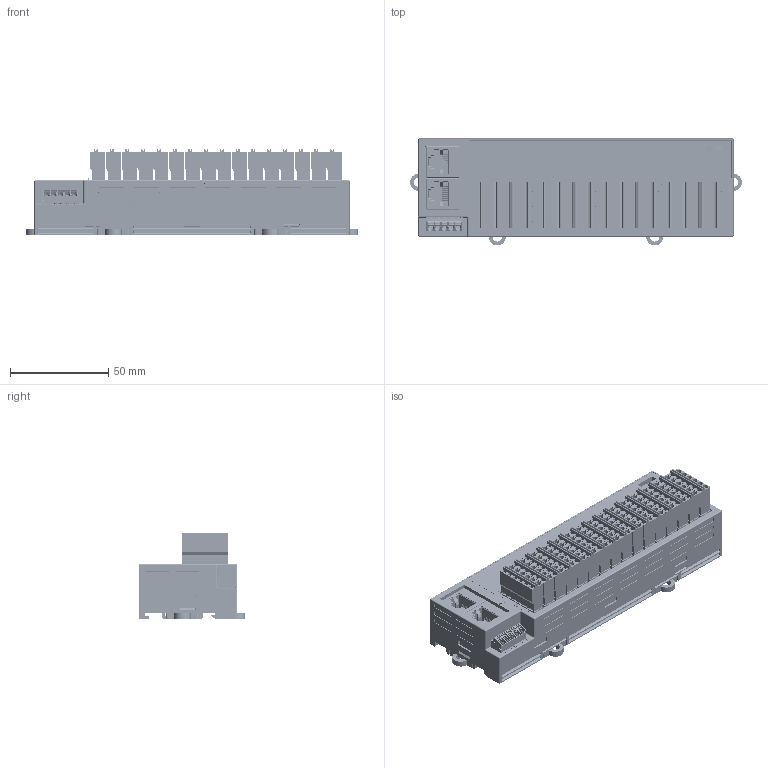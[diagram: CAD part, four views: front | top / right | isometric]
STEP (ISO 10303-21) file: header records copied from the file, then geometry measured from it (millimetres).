
FILE_DESCRIPTION((''),'2;1');
FILE_NAME('HCNXE-MD2408-D-DUIWAI_ASM_ASM','2021-09-23T13:43:16',('AOC'),(''),'CREO PARAMETRIC BY PTC INC, 2018050','CREO PARAMETRIC BY PTC INC, 2018050','');
FILE_SCHEMA(('CONFIG_CONTROL_DESIGN','SHAPE_APPEARANCE_LAYERS_GROUPS'));
Products named in the file (53): HSMP2700001_1; HSMP2700002_1; HSMP2700002-L_1_1; HSMP2700002-L_1_2; HSMP2700002-L_1_3; HSMP2700002-L_1_4; HSMP2700002-L_1_5; HSMP2700002-L_1_6; HSMP2700002-L_1_7; HSMP2700002-L_1_8; HSMP2700002-L_1_9; HSMP2700002-L_1_10; HSMP2700002-L_1_11; HSMP2700002-L_1_12; HSMP2700002-L_1_13; HSMP2700002-L_1_14; HSMP2700002-L_1_15; HSMP2700002-L_1_16; HSMP2700002-L_1_17; HSMP2700002-L_1_18; HSMP2700002-L_1_19; HSMP2700002-L_1_20; HSMP2700002-L_1_21; HSMP2700002-L_1_22; HSMP2700002-L_1_23; HSMP2700002-L_1_24; HSMP2700002-L_1_25; HSMP2700002-L_1_26; HSMP2700002-L_1_27; HSMP2700002-L_1_28; HSMP2700002-L_1_29; HSMP2700002-L_1_30; HSMP2700002-L_1_31; HSMP2700002-L_1_32; HSMP2700002-L_1_ASM; HSMP2700002-L_ASM_1_ASM; HMSP0040000_1; HMSP0040000-S-MD1616_1; HMSP0040000-S_ASM_1_ASM; HSMP2700003_1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
Assembly tree (85 placements, depth 6):
  HCNXE-MD2408-D-DUIWAI_ASM_ASM
    HCNXE-MD2408-D-DUIWAI_ASM_8_ASM
      HCNXE-DIGTAL-IO-D-BOM-ASSEMBLY__ASM
        HSMP2700001_1
        HSMP2700002-L_ASM_1_ASM
          HSMP2700002_1
          HSMP2700002-L_1_ASM
            HSMP2700002-L_1_1
            HSMP2700002-L_1_2
            HSMP2700002-L_1_3
            HSMP2700002-L_1_4
            HSMP2700002-L_1_5
            HSMP2700002-L_1_6
            HSMP2700002-L_1_7
            HSMP2700002-L_1_8
            HSMP2700002-L_1_9
            HSMP2700002-L_1_10
            HSMP2700002-L_1_11
            HSMP2700002-L_1_12
            HSMP2700002-L_1_13
            HSMP2700002-L_1_14
            HSMP2700002-L_1_15
            HSMP2700002-L_1_16
            HSMP2700002-L_1_17
            HSMP2700002-L_1_18
            HSMP2700002-L_1_19
            HSMP2700002-L_1_20
            HSMP2700002-L_1_21
            HSMP2700002-L_1_22
            HSMP2700002-L_1_23
            HSMP2700002-L_1_24
            HSMP2700002-L_1_25
            HSMP2700002-L_1_26
            HSMP2700002-L_1_27
            HSMP2700002-L_1_28
            HSMP2700002-L_1_29
            HSMP2700002-L_1_30
            HSMP2700002-L_1_31
            HSMP2700002-L_1_32
        HMSP0040000-S_ASM_1_ASM
          HMSP0040000_1
          HMSP0040000-S-MD1616_1
        HSMP2700003_1
        HSMP2700004_1  x2
        HSMP2700005_3  x2
      HCNXE-DIGTAL-IO-D-PCBA-CPU_ASM__ASM
        NH0510000000G_1
        FRJ45089-1100K6K0200_1  x2
      HCNXE-DIGTAL-IO-D-PCBA-IO_ASM_4_ASM
        ECH381V-06P-BK_1  x16
        0156-06PIN-BK_ASM_1
        NSI-10S_1
        0001_1  x16
Bounding box: 168.6 x 54.3 x 44 mm (x, y, z)
Volume: 307672.9 mm3; surface area: 151970.2 mm2
Topology: 75 solids, 528 shells, 15012 faces, 46410 edges, 32150 vertices
Faces by surface type: plane 11393, cylinder 1986, cone 628, bspline 349, extrusion 230, torus 219, sphere 207
Entity records: 304810 total; most frequent: CARTESIAN_POINT 101732, ORIENTED_EDGE 35206, DIRECTION 30870, EDGE_CURVE 20111, VERTEX_POINT 14957, VECTOR 13842, LINE 13612, AXIS2_PLACEMENT_3D 8514
